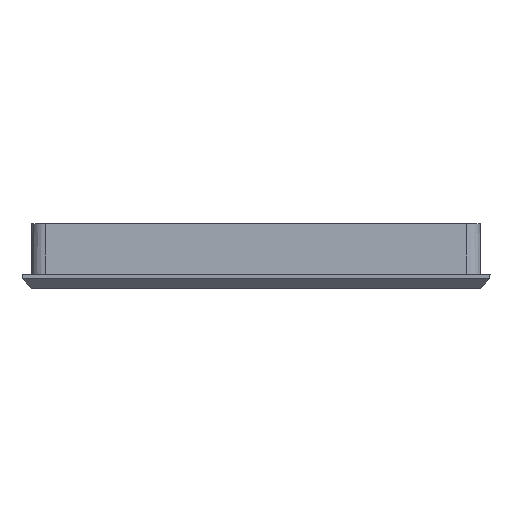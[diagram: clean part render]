
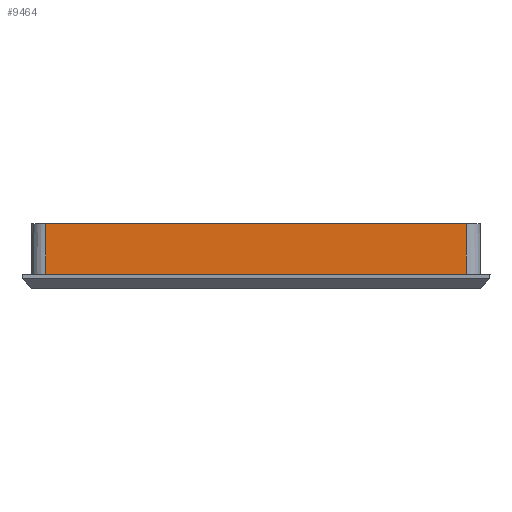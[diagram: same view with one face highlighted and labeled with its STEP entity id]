
A CAD part, left-side view. The second image highlights one B-rep face of the part: STEP entity #9464.
In plain terms, the highlighted planar face has unit normal (-1, 0, 0.01).
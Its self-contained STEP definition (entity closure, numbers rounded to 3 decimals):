
#9464=ADVANCED_FACE('',(#14108),#11922,.T.);
#11922=PLANE('',#49287);
#14108=FACE_OUTER_BOUND('',#16535,.T.);
#16535=EDGE_LOOP('',(#24736,#24737,#24738,#24739));
#24736=ORIENTED_EDGE('',*,*,#35941,.T.);
#24737=ORIENTED_EDGE('',*,*,#35819,.T.);
#24738=ORIENTED_EDGE('',*,*,#35944,.F.);
#24739=ORIENTED_EDGE('',*,*,#35951,.F.);
#30948=VERTEX_POINT('',#69278);
#30949=VERTEX_POINT('',#69280);
#31035=VERTEX_POINT('',#69525);
#31036=VERTEX_POINT('',#69531);
#35819=EDGE_CURVE('',#30949,#30948,#41304,.T.);
#35941=EDGE_CURVE('',#31035,#30949,#41419,.T.);
#35944=EDGE_CURVE('',#31036,#30948,#41421,.T.);
#35951=EDGE_CURVE('',#31035,#31036,#41426,.T.);
#41304=LINE('',#69279,#46157);
#41419=LINE('',#69524,#46272);
#41421=LINE('',#69530,#46274);
#41426=LINE('',#69544,#46279);
#46157=VECTOR('',#57562,1.);
#46272=VECTOR('',#57765,1.);
#46274=VECTOR('',#57773,1.);
#46279=VECTOR('',#57788,1.);
#49287=AXIS2_PLACEMENT_3D('',#69545,#57789,#57790);
#57562=DIRECTION('',(0.,-1.,0.));
#57765=DIRECTION('',(-0.01,0.,-1.));
#57773=DIRECTION('',(-0.01,0.,-1.));
#57788=DIRECTION('',(0.,-1.,0.));
#57789=DIRECTION('',(-1.,0.,0.01));
#57790=DIRECTION('',(-0.01,0.,-1.));
#69278=CARTESIAN_POINT('',(-132.7,-78.6,3.));
#69279=CARTESIAN_POINT('',(-132.7,84.,3.));
#69280=CARTESIAN_POINT('',(-132.7,78.6,3.));
#69524=CARTESIAN_POINT('',(-132.7,78.6,3.));
#69525=CARTESIAN_POINT('',(-132.498,78.6,24.));
#69530=CARTESIAN_POINT('',(-132.7,-78.6,3.));
#69531=CARTESIAN_POINT('',(-132.498,-78.6,24.));
#69544=CARTESIAN_POINT('',(-132.498,78.6,24.));
#69545=CARTESIAN_POINT('',(-132.7,78.6,3.));
